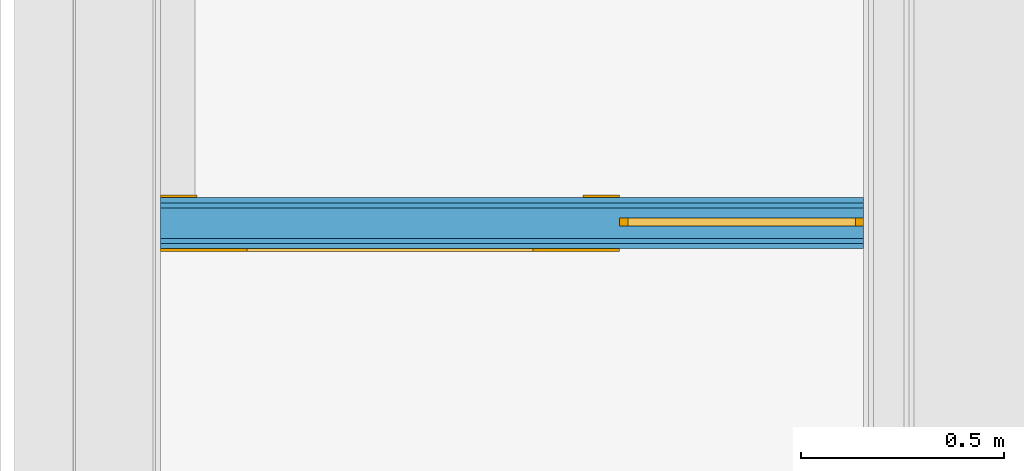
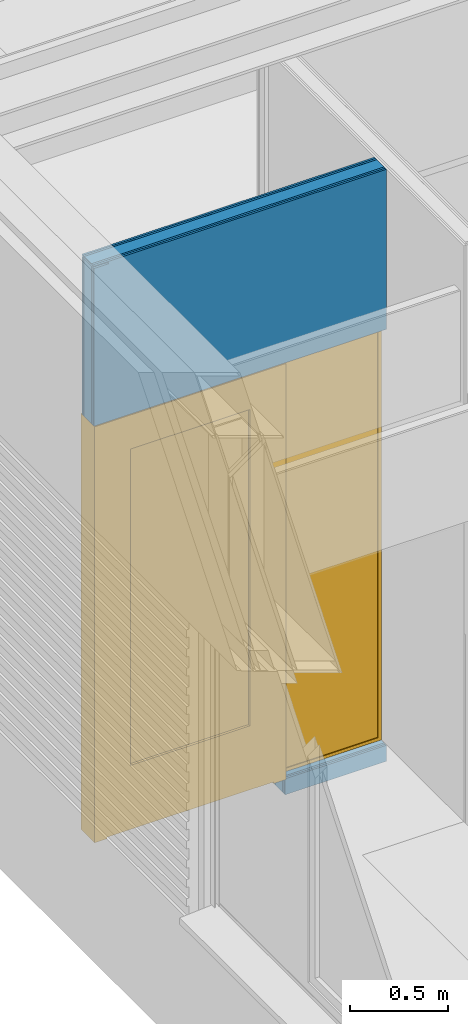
# One storey, part 46 of 137: 5 building element parts, 2 doors, 2 openings, 1 element without a shape of its own.
"""IFC2X3 building model written with IfcOpenShell, lengths in millimetres."""

from ifc_helpers import new_model, entity, si_unit, converted_unit, derived_unit, money_unit, direction, frame, origin_with_axes, place, context, subcontext, project, spatial, open_shell, faceted_brep, surface_model, source, transform, mapped, material, type_object, type_shapes, element, fill, aggregate, save


model = new_model("IFC2X3")

# Units and contexts
model_context = context("Model", 3, precision=0.01, world=origin_with_axes(), true_north=direction((0.0, 1.0)))
body_context = subcontext(model_context, "Body", "Model", "MODEL_VIEW")
ifc_project = project(units=[si_unit("LENGTHUNIT", "METRE", prefix="MILLI"), si_unit("AREAUNIT", "SQUARE_METRE"), si_unit("VOLUMEUNIT", "CUBIC_METRE"), converted_unit("PLANEANGLEUNIT", "DEGREE", entity("IfcPlaneAngleMeasure", 0.0174532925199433), si_unit("PLANEANGLEUNIT", "RADIAN"), dimensions=[0, 0, 0, 0, 0, 0, 0]), money_unit("EUR"), converted_unit("TIMEUNIT", "Year", entity("IfcTimeMeasure", 31556926.0), si_unit("TIMEUNIT", "SECOND"), dimensions=[0, 0, 1, 0, 0, 0, 0]), si_unit("MASSUNIT", "GRAM", prefix="KILO"), si_unit("THERMODYNAMICTEMPERATUREUNIT", "DEGREE_CELSIUS"), si_unit("LUMINOUSINTENSITYUNIT", "LUMEN"), si_unit("ENERGYUNIT", "JOULE", prefix="MEGA"), derived_unit("THERMALCONDUCTANCEUNIT", [(si_unit("POWERUNIT", "WATT"), 1), (si_unit("LENGTHUNIT", "METRE"), -1), (si_unit("THERMODYNAMICTEMPERATUREUNIT", "KELVIN"), -1)]), derived_unit("SPECIFICHEATCAPACITYUNIT", [(si_unit("ENERGYUNIT", "JOULE"), 1), (si_unit("MASSUNIT", "GRAM", prefix="KILO"), -1), (si_unit("THERMODYNAMICTEMPERATUREUNIT", "KELVIN"), -1)]), derived_unit("MASSDENSITYUNIT", [(si_unit("MASSUNIT", "GRAM", prefix="KILO"), 1), (si_unit("VOLUMEUNIT", "CUBIC_METRE"), -1)])], contexts=[model_context])

# Site, building, storey
site_placement = place(None, origin_with_axes())
site = spatial("IfcSite", under=ifc_project, at=site_placement, Name="Site", CompositionType="ELEMENT")
building_placement = place(site_placement, origin_with_axes())
building = spatial("IfcBuilding", under=site, at=building_placement, Name="Naam gebouw", CompositionType="ELEMENT")
storey_placement = place(building_placement, frame((0.0, 0.0, 3960.0), z_axis=(0.0, 0.0, 1.0), x_axis=(1.0, 0.0, 0.0)))
storey = spatial("IfcBuildingStorey", under=building, at=storey_placement, Name="1e verdieping", CompositionType="ELEMENT", Elevation=3960.0)

# Door
door_style_1 = type_object("IfcDoorStyle", Name="D1 26", ConstructionType="NOTDEFINED", OperationType="SINGLE_SWING_RIGHT", ParameterTakesPrecedence=False, Sizeable=False)
shared_shape = source(origin_with_axes(), body_context, "Body", "SurfaceModel", [
    faceted_brep([(-475.0000000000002, -40.0, 0.0), (-475.0000000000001, -40.0, 2510.0), (-475.0000000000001, -139.0, 2510.0), (-475.0000000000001, -139.0, 0.0), (-492.0000000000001, -40.0, 2510.0), (-492.0000000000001, -40.0, 0.0), (-492.0000000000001, 0.0, 2510.0), (-565.0, 0.0, 2510.0), (-565.0, -139.0, 2510.0), (-565.0, -139.0, 0.0), (-565.0, 0.0, 0.0), (-492.0000000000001, 0.0, 0.0)], [[[0, 1, 2, 3]], [[4, 1, 0, 5]], [[4, 6, 7, 8, 2, 1]], [[3, 2, 8, 9]], [[5, 0, 3, 9, 10, 11]], [[6, 4, 5, 11]], [[6, 11, 10, 7]], [[10, 9, 8, 7]]]),
    faceted_brep([(492.0000000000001, -40.0, 2510.0), (475.0000000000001, -40.0, 2510.0), (475.0000000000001, -139.0, 2510.0), (565.0, -139.0, 2510.0), (565.0, 0.0, 2510.0), (492.0000000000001, 0.0, 2510.0), (492.0000000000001, -40.0, 0.0), (475.0000000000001, -40.0, 0.0), (475.0000000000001, -139.0, 0.0), (565.0, -139.0, 0.0), (565.0, 0.0, 0.0), (492.0000000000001, 0.0, 0.0)], [[[0, 1, 2, 3, 4, 5]], [[1, 0, 6, 7]], [[1, 7, 8, 2]], [[3, 2, 8, 9]], [[4, 3, 9, 10]], [[11, 5, 4, 10]], [[0, 5, 11, 6]], [[6, 11, 10, 9, 8, 7]]]),
    faceted_brep([(-492.0000000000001, 0.0, 2527.0), (-492.0000000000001, 0.0, 2510.0), (-565.0000000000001, 0.0, 2510.0), (-565.0000000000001, 0.0, 2600.0), (565.0000000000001, 0.0, 2600.0), (565.0000000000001, 0.0, 2510.0), (492.0000000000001, 0.0, 2510.0), (492.0000000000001, 0.0, 2527.0), (-492.0000000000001, -40.0, 2527.0), (-492.0000000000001, -40.0, 2510.0), (-475.0000000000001, -40.0, 2510.0), (-475.0000000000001, -139.0, 2510.0), (-565.0000000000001, -139.0, 2510.0), (-565.0000000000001, -139.0, 2600.0), (565.0000000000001, -139.0, 2600.0), (565.0000000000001, -139.0, 2510.0), (492.0000000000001, -40.0, 2510.0), (475.0000000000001, -139.0, 2510.0), (475.0000000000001, -40.0, 2510.0), (492.0000000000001, -40.0, 2527.0)], [[[0, 1, 2, 3, 4, 5, 6, 7]], [[1, 0, 8, 9]], [[9, 10, 11, 12, 2, 1]], [[2, 12, 13, 3]], [[3, 13, 14, 4]], [[4, 14, 15, 5]], [[16, 6, 5, 15, 17, 18]], [[7, 6, 16, 19]], [[0, 7, 19, 8]], [[16, 18, 10, 9, 8, 19]], [[10, 18, 17, 11]], [[17, 15, 14, 13, 12, 11]]]),
    faceted_brep([(492.0, 0.0, 410.0000000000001), (492.0, -40.00000000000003, 410.0000000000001), (352.0, -40.00000000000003, 410.0000000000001), (352.0, 0.0, 410.0000000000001), (492.0, 0.0, 2387.0), (492.0, -40.00000000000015, 2387.0), (352.0, -40.00000000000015, 2387.0), (352.0, 0.0, 2387.0)], [[[0, 1, 2, 3]], [[4, 5, 1, 0]], [[1, 5, 6, 2]], [[3, 2, 6, 7]], [[0, 3, 7, 4]], [[7, 6, 5, 4]]]),
    faceted_brep([(-492.0000000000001, 0.0, 410.0000000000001), (-492.0000000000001, -40.00000000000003, 410.0000000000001), (-492.0000000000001, -40.00000000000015, 2387.0), (-492.0000000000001, 0.0, 2387.0), (-352.0000000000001, 0.0, 410.0000000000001), (-352.0000000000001, -40.00000000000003, 410.0000000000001), (-352.0000000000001, -40.00000000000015, 2387.0), (-352.0000000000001, 0.0, 2387.0)], [[[0, 1, 2, 3]], [[4, 5, 1, 0]], [[1, 5, 6, 2]], [[3, 2, 6, 7]], [[0, 3, 7, 4]], [[7, 6, 5, 4]]]),
    faceted_brep([(492.0, 0.0, 10.0), (492.0, -40.0, 10.0), (-492.0000000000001, -40.0, 10.0), (-492.0000000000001, 0.0, 10.0), (492.0, 0.0, 410.0000000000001), (492.0, -40.00000000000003, 410.0000000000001), (352.0, -40.00000000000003, 410.0000000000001), (-352.0000000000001, -40.00000000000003, 410.0000000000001), (-492.0000000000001, -40.00000000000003, 410.0000000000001), (-492.0000000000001, 0.0, 410.0000000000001), (-352.0000000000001, 0.0, 410.0000000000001), (352.0, 0.0, 410.0000000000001)], [[[0, 1, 2, 3]], [[4, 5, 1, 0]], [[1, 5, 6, 7, 8, 2]], [[3, 2, 8, 9]], [[0, 3, 9, 10, 11, 4]], [[11, 6, 5, 4]], [[10, 7, 6, 11]], [[9, 8, 7, 10]]]),
    faceted_brep([(492.0, 0.0, 2527.0), (492.0, -40.00000000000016, 2527.0), (492.0, -40.00000000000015, 2387.0), (492.0, 0.0, 2387.0), (-492.0000000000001, 0.0, 2527.0), (-492.0000000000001, -40.00000000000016, 2527.0), (-492.0000000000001, -40.00000000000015, 2387.0), (-352.0000000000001, -40.00000000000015, 2387.0), (352.0, -40.00000000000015, 2387.0), (352.0, 0.0, 2387.0), (-352.0000000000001, 0.0, 2387.0), (-492.0000000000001, 0.0, 2387.0)], [[[0, 1, 2, 3]], [[4, 5, 1, 0]], [[1, 5, 6, 7, 8, 2]], [[3, 2, 8, 9]], [[0, 3, 9, 10, 11, 4]], [[11, 6, 5, 4]], [[10, 7, 6, 11]], [[9, 8, 7, 10]]]),
    surface_model("IfcShellBasedSurfaceModel", [(352.0, -14.0, 410.0000000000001), (-352.0000000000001, -14.0, 410.0000000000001), (-352.0000000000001, -14.0, 2387.0), (352.0, -14.0, 2387.0)], [open_shell([[[0, 1, 2, 3]]])]),
    surface_model("IfcShellBasedSurfaceModel", [(352.0, -26.0, 410.0000000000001), (352.0, -26.0, 2387.0), (-352.0000000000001, -26.0, 2387.0), (-352.0000000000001, -26.0, 410.0000000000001)], [open_shell([[[0, 1, 2, 3]]])]),
])
type_shapes(door_style_1, [shared_shape])
proxy_placement = place(storey_placement, frame((0.0, 21157.47621406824, -100.0000000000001), z_axis=(0.0, 0.0, 1.0), x_axis=(1.0, 0.0, 0.0)))
opening_2_placement = place(proxy_placement, frame((779.000000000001, 0.0, 100.0000000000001), z_axis=(0.0, 0.0, 1.0), x_axis=(1.0, 0.0, 0.0)))
door_1_placement = place(opening_2_placement, frame((474.9999999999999, 0.0, 0.0), z_axis=(0.0, 0.0, 1.0), x_axis=(-1.0, 0.0, 0.0)))
door_1 = element("IfcDoor", 1, at=door_1_placement, inside=storey, type_object=door_style_1, Name="_01.01", ObjectType="DOOR", OverallHeight=2600.0, OverallWidth=1130.0, context=body_context, shape_type="MappedRepresentation", body=[
    mapped(shared_shape, transform((474.9999999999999, 69.50000000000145, 0.0))),
])

door_style_2 = type_object("IfcDoorStyle", Name="R1 26", ConstructionType="NOTDEFINED", OperationType="SINGLE_SWING_RIGHT", ParameterTakesPrecedence=False, Sizeable=False)
opening_1_placement = place(proxy_placement, frame((1644.000000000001, 0.0, 99.99999999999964), z_axis=(0.0, 0.0, 1.0), x_axis=(1.0, 0.0, 0.0)))
door_2_placement = place(opening_1_placement, frame((-300.0000000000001, 0.0, 0.0), z_axis=(0.0, 0.0, 1.0), x_axis=(1.0, 0.0, 0.0)))
door_2 = element("IfcDoor", 2, at=door_2_placement, inside=storey, type_object=door_style_2, Name="_F.01", ObjectType="DOOR", OverallHeight=2600.0, OverallWidth=600.0, context=body_context, shape_type="SurfaceModel", body=[
    faceted_brep([(580.0000000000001, -7.500000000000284, 2580.000000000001), (600.0000000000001, -7.500000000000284, 2580.000000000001), (600.0000000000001, 12.49999999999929, 2580.000000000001), (580.0000000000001, 12.49999999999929, 2580.000000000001), (580.0000000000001, -7.500000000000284, 20.00000000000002), (600.0000000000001, -7.500000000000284, 20.00000000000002), (600.0000000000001, 12.49999999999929, 20.00000000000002), (580.0000000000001, 12.49999999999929, 20.00000000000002)], [[[0, 1, 2, 3]], [[0, 4, 5, 1]], [[1, 5, 6, 2]], [[3, 2, 6, 7]], [[4, 0, 3, 7]], [[5, 4, 7, 6]]]),
    faceted_brep([(20.00000000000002, -7.500000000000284, 20.00000000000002), (0.0, -7.500000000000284, 20.00000000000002), (0.0, 12.49999999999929, 20.00000000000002), (20.00000000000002, 12.49999999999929, 20.00000000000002), (20.00000000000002, -7.500000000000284, 2580.000000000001), (0.0, -7.500000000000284, 2580.000000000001), (0.0, 12.49999999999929, 2580.000000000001), (20.00000000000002, 12.49999999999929, 2580.000000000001)], [[[0, 1, 2, 3]], [[0, 4, 5, 1]], [[1, 5, 6, 2]], [[3, 2, 6, 7]], [[4, 0, 3, 7]], [[5, 4, 7, 6]]]),
    faceted_brep([(580.0000000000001, -7.500000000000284, 20.00000000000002), (600.0000000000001, -7.500000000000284, 20.00000000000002), (600.0000000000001, 12.49999999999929, 20.00000000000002), (580.0000000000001, 12.49999999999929, 20.00000000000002), (20.00000000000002, -7.500000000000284, 20.00000000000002), (0.0, -7.500000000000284, 20.00000000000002), (0.0, -7.500000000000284, 0.0), (600.0000000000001, -7.500000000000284, 0.0), (600.0000000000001, 12.49999999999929, 0.0), (0.0, 12.49999999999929, 0.0), (0.0, 12.49999999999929, 20.00000000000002), (20.00000000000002, 12.49999999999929, 20.00000000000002)], [[[0, 1, 2, 3]], [[0, 4, 5, 6, 7, 1]], [[1, 7, 8, 2]], [[3, 2, 8, 9, 10, 11]], [[4, 0, 3, 11]], [[5, 4, 11, 10]], [[6, 5, 10, 9]], [[7, 6, 9, 8]]]),
    faceted_brep([(20.00000000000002, -7.500000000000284, 2580.000000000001), (0.0, -7.500000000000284, 2580.000000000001), (0.0, 12.49999999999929, 2580.000000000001), (20.00000000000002, 12.49999999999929, 2580.000000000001), (580.0000000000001, -7.500000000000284, 2580.000000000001), (600.0000000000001, -7.500000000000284, 2580.000000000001), (600.0000000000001, -7.500000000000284, 2600.000000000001), (0.0, -7.500000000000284, 2600.000000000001), (0.0, 12.49999999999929, 2600.000000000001), (600.0000000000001, 12.49999999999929, 2600.000000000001), (600.0000000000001, 12.49999999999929, 2580.000000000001), (580.0000000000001, 12.49999999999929, 2580.000000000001)], [[[0, 1, 2, 3]], [[0, 4, 5, 6, 7, 1]], [[1, 7, 8, 2]], [[3, 2, 8, 9, 10, 11]], [[4, 0, 3, 11]], [[5, 4, 11, 10]], [[6, 5, 10, 9]], [[7, 6, 9, 8]]]),
    surface_model("IfcShellBasedSurfaceModel", [(580.0000000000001, -2.500000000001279, 20.00000000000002), (580.0000000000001, -2.500000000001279, 2580.000000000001), (20.00000000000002, -2.500000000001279, 2580.000000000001), (20.00000000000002, -2.500000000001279, 20.00000000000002)], [open_shell([[[0, 1, 2, 3]]])]),
    surface_model("IfcShellBasedSurfaceModel", [(580.0000000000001, 7.500000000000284, 20.00000000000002), (20.00000000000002, 7.500000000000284, 20.00000000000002), (20.00000000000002, 7.500000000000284, 2580.000000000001), (580.0000000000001, 7.500000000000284, 2580.000000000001)], [open_shell([[[0, 1, 2, 3]]])]),
])

# Proxy, opening
building_element_proxy_type = type_object("IfcBuildingElementProxyType", Name="22 Metal stud 125 gips 125", PredefinedType="NOTDEFINED")
proxy = element("IfcBuildingElementProxy", 3, at=proxy_placement, inside=storey, type_object=building_element_proxy_type, Name="_Wand-x")
opening_1 = element("IfcOpeningElement", 4, at=opening_1_placement, cuts=proxy, Name="_F.01", context=body_context, shape_type="Brep", body=[
    faceted_brep([(-300.0000000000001, 12.49999999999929, 0.0), (-300.0000000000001, 12.49999999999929, 2600.000000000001), (-300.0000000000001, 63.50000000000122, 2600.000000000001), (-300.0000000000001, 63.50000000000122, 0.0), (-300.0000000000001, -63.50000000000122, 0.0), (-300.0000000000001, -63.50000000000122, 2600.000000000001), (300.0000000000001, 12.49999999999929, 2600.000000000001), (300.0000000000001, 63.50000000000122, 2600.000000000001), (300.0000000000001, -63.50000000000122, 2600.000000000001), (300.0000000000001, 63.50000000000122, 0.0), (300.0000000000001, 12.49999999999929, 0.0), (300.0000000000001, -63.50000000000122, 0.0)], [[[0, 1, 2, 3]], [[1, 0, 4, 5]], [[6, 7, 2, 1, 5, 8]], [[7, 9, 3, 2]], [[0, 3, 9, 10, 11, 4]], [[5, 4, 11, 8]], [[6, 10, 9, 7]], [[10, 6, 8, 11]]]),
])

fill(opening_1, door_2)

# Opening
opening_2 = element("IfcOpeningElement", 5, at=opening_2_placement, cuts=proxy, Name="_01.01", context=body_context, shape_type="Brep", body=[
    faceted_brep([(565.0000000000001, 63.50000000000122, 2600.0), (565.0000000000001, 63.50000000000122, -100.0000000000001), (-565.0000000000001, 63.50000000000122, -100.0000000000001), (-565.0000000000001, 63.50000000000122, 2600.0), (565.0000000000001, -63.50000000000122, 2600.0), (565.0000000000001, -63.50000000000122, -100.0000000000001), (-565.0000000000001, -63.50000000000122, -100.0000000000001), (-565.0000000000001, -63.50000000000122, 2600.0)], [[[0, 1, 2, 3]], [[4, 5, 1, 0]], [[5, 6, 2, 1]], [[6, 7, 3, 2]], [[7, 4, 0, 3]], [[6, 5, 4, 7]]]),
])

fill(opening_2, door_1)

# Building element part
ifc_material_1 = material(Name="Gipsplaat")
building_element_part_1_placement = place(proxy_placement, origin_with_axes())
building_element_part_1 = element("IfcBuildingElementPart", 6, at=building_element_part_1_placement, material=ifc_material_1, Name="Gipsplaat", context=body_context, shape_type="Brep", body=[
    faceted_brep([(1344.0, 50.00000000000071, 0.0), (1344.0, 50.00000000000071, 99.99999999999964), (1944.0, 50.00000000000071, 99.99999999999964), (1944.0, 50.00000000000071, 0.0), (1344.0, 37.50000000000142, 99.99999999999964), (1344.0, 37.50000000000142, 0.0), (1944.0, 37.50000000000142, 99.99999999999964), (1944.0, 37.50000000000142, 0.0)], [[[0, 1, 2, 3]], [[4, 1, 0, 5]], [[1, 4, 6, 2]], [[6, 7, 3, 2]], [[5, 0, 3, 7]], [[4, 5, 7, 6]]]),
    faceted_brep([(1344.0, 37.50000000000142, 2700.0), (213.9999999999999, 37.50000000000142, 2700.0), (213.9999999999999, 50.00000000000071, 2700.0), (1344.0, 50.00000000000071, 2700.0), (1944.0, 50.00000000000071, 2700.0), (1944.0, 37.50000000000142, 2700.0), (1944.0, 37.50000000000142, 3700.0), (214.0000000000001, 37.50000000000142, 3700.0), (214.0000000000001, 37.50000000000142, 3695.000001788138), (299.0000049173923, 37.50000000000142, 3695.000001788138), (299.0000049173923, 37.50000000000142, 3685.000001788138), (214.0000000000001, 37.50000000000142, 3685.000001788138), (214.0000000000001, 50.00000000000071, 3685.000001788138), (299.0000049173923, 50.00000000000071, 3685.000001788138), (299.0000049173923, 50.00000000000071, 3695.000001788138), (214.0000000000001, 50.00000000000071, 3695.000001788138), (214.0000000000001, 50.00000000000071, 3700.0), (1944.0, 50.00000000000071, 3700.0)], [[[0, 1, 2, 3, 4, 5]], [[1, 0, 5, 6, 7, 8, 9, 10, 11]], [[2, 1, 11, 12]], [[3, 2, 12, 13, 14, 15, 16, 17, 4]], [[4, 17, 6, 5]], [[16, 7, 6, 17]], [[7, 16, 15, 8]], [[9, 8, 15, 14]], [[10, 9, 14, 13]], [[11, 10, 13, 12]]]),
])

building_element_part_2_placement = place(proxy_placement, origin_with_axes())
building_element_part_2 = element("IfcBuildingElementPart", 7, at=building_element_part_2_placement, material=ifc_material_1, Name="Gipsplaat", context=body_context, shape_type="Brep", body=[
    faceted_brep([(1344.0, 62.5, 0.0), (1344.0, 62.5, 99.99999999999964), (1944.0, 62.5, 99.99999999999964), (1944.0, 62.5, 0.0), (1344.0, 50.00000000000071, 99.99999999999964), (1344.0, 50.00000000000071, 0.0), (1944.0, 50.00000000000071, 99.99999999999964), (1944.0, 50.00000000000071, 0.0)], [[[0, 1, 2, 3]], [[4, 1, 0, 5]], [[1, 4, 6, 2]], [[6, 7, 3, 2]], [[5, 0, 3, 7]], [[4, 5, 7, 6]]]),
    faceted_brep([(1344.0, 50.00000000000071, 2700.0), (213.9999999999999, 50.00000000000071, 2700.0), (213.9999999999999, 62.5, 2700.0), (1344.0, 62.5, 2700.0), (1944.0, 62.5, 2700.0), (1944.0, 50.00000000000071, 2700.0), (1944.0, 50.00000000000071, 3700.0), (214.0000000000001, 50.00000000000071, 3700.0), (214.0000000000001, 50.00000000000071, 3695.000001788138), (299.0000049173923, 50.00000000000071, 3695.000001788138), (299.0000049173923, 50.00000000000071, 3685.000001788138), (214.0000000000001, 50.00000000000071, 3685.000001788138), (214.0000000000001, 62.5, 3685.000001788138), (299.0000049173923, 62.5, 3685.000001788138), (299.0000049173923, 62.5, 3695.000001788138), (214.0000000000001, 62.5, 3695.000001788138), (214.0000000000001, 62.5, 3700.0), (1944.0, 62.5, 3700.0)], [[[0, 1, 2, 3, 4, 5]], [[1, 0, 5, 6, 7, 8, 9, 10, 11]], [[2, 1, 11, 12]], [[3, 2, 12, 13, 14, 15, 16, 17, 4]], [[4, 17, 6, 5]], [[16, 7, 6, 17]], [[7, 16, 15, 8]], [[9, 8, 15, 14]], [[10, 9, 14, 13]], [[11, 10, 13, 12]]]),
])

ifc_material_2 = material(Name="ALG - LICHTE SCHEIDINGSWAND")
building_element_part_3_placement = place(proxy_placement, origin_with_axes())
building_element_part_3 = element("IfcBuildingElementPart", 8, at=building_element_part_3_placement, material=ifc_material_2, Name="ALG - LICHTE SCHEIDINGSWAND", context=body_context, shape_type="Brep", body=[
    faceted_brep([(1344.0, 37.50000000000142, 0.0), (1344.0, 37.50000000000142, 99.99999999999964), (1944.0, 37.50000000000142, 99.99999999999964), (1944.0, 37.50000000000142, 0.0), (1344.0, -37.50000000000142, 99.99999999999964), (1344.0, -37.50000000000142, 0.0), (1944.0, -37.50000000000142, 99.99999999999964), (1944.0, -37.50000000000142, 0.0)], [[[0, 1, 2, 3]], [[4, 1, 0, 5]], [[1, 4, 6, 2]], [[7, 3, 2, 6]], [[5, 0, 3, 7]], [[4, 5, 7, 6]]]),
    faceted_brep([(1344.0, -37.50000000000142, 2700.0), (213.9999999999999, -37.50000000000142, 2700.0), (213.9999999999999, 37.50000000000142, 2700.0), (1344.0, 37.50000000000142, 2700.0), (1944.0, 37.50000000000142, 2700.0), (1944.0, -37.49999999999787, 2700.0), (1944.0, -37.49999999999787, 3700.0), (214.0000000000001, -37.50000000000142, 3700.0), (214.0000000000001, -37.50000000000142, 3695.000001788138), (299.0000049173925, -37.49999999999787, 3695.000001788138), (299.0000049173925, -37.49999999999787, 3685.000001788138), (214.0000000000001, -37.50000000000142, 3685.000001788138), (214.0000000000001, 37.50000000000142, 3685.000001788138), (299.0000049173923, 37.50000000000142, 3685.000001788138), (299.0000049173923, 37.50000000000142, 3695.000001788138), (214.0000000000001, 37.50000000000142, 3695.000001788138), (214.0000000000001, 37.50000000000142, 3700.0), (1944.0, 37.50000000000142, 3700.0)], [[[0, 1, 2, 3, 4, 5]], [[1, 0, 5, 6, 7, 8, 9, 10, 11]], [[2, 1, 11, 12]], [[3, 2, 12, 13, 14, 15, 16, 17, 4]], [[4, 17, 6, 5]], [[7, 6, 17, 16]], [[16, 15, 8, 7]], [[8, 15, 14, 9]], [[9, 14, 13, 10]], [[10, 13, 12, 11]]]),
])

building_element_part_4_placement = place(proxy_placement, origin_with_axes())
building_element_part_4 = element("IfcBuildingElementPart", 9, at=building_element_part_4_placement, material=ifc_material_1, Name="Gipsplaat", context=body_context, shape_type="Brep", body=[
    faceted_brep([(1344.0, -50.00000000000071, 0.0), (1344.0, -50.00000000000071, 99.99999999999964), (1944.0, -50.00000000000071, 99.99999999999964), (1944.0, -50.00000000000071, 0.0), (1344.0, -62.5, 99.99999999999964), (1344.0, -62.5, 0.0), (1944.0, -62.5, 99.99999999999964), (1944.0, -62.5, 0.0)], [[[0, 1, 2, 3]], [[4, 1, 0, 5]], [[1, 4, 6, 2]], [[6, 7, 3, 2]], [[5, 0, 3, 7]], [[4, 5, 7, 6]]]),
    faceted_brep([(1344.0, -62.5, 2700.0), (213.9999999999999, -62.5, 2700.0), (213.9999999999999, -50.00000000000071, 2700.0), (1344.0, -50.00000000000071, 2700.0), (1944.0, -50.00000000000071, 2700.0), (1944.0, -62.5, 2700.0), (1944.0, -62.5, 3700.0), (214.0000000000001, -62.5, 3700.0), (214.0000000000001, -62.5, 3695.000001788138), (299.0000049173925, -62.5, 3695.000001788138), (299.0000049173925, -62.5, 3685.000001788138), (214.0000000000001, -62.5, 3685.000001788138), (214.0000000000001, -50.00000000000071, 3685.000001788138), (299.0000049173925, -50.00000000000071, 3685.000001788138), (299.0000049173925, -50.00000000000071, 3695.000001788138), (214.0000000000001, -50.00000000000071, 3695.000001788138), (214.0000000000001, -50.00000000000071, 3700.0), (1944.0, -50.00000000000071, 3700.0)], [[[0, 1, 2, 3, 4, 5]], [[1, 0, 5, 6, 7, 8, 9, 10, 11]], [[2, 1, 11, 12]], [[3, 2, 12, 13, 14, 15, 16, 17, 4]], [[4, 17, 6, 5]], [[16, 7, 6, 17]], [[7, 16, 15, 8]], [[9, 8, 15, 14]], [[10, 9, 14, 13]], [[11, 10, 13, 12]]]),
])

building_element_part_5_placement = place(proxy_placement, origin_with_axes())
building_element_part_5 = element("IfcBuildingElementPart", 10, at=building_element_part_5_placement, material=ifc_material_1, Name="Gipsplaat", context=body_context, shape_type="Brep", body=[
    faceted_brep([(1344.0, -37.50000000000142, 0.0), (1344.0, -37.50000000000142, 99.99999999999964), (1944.0, -37.50000000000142, 99.99999999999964), (1944.0, -37.50000000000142, 0.0), (1344.0, -50.00000000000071, 99.99999999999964), (1344.0, -50.00000000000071, 0.0), (1944.0, -50.00000000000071, 99.99999999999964), (1944.0, -50.00000000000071, 0.0)], [[[0, 1, 2, 3]], [[4, 1, 0, 5]], [[1, 4, 6, 2]], [[6, 7, 3, 2]], [[5, 0, 3, 7]], [[4, 5, 7, 6]]]),
    faceted_brep([(1344.0, -50.00000000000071, 2700.0), (213.9999999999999, -50.00000000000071, 2700.0), (213.9999999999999, -37.50000000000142, 2700.0), (1344.0, -37.50000000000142, 2700.0), (1944.0, -37.49999999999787, 2700.0), (1944.0, -50.00000000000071, 2700.0), (1944.0, -50.00000000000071, 3700.0), (214.0000000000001, -50.00000000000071, 3700.0), (214.0000000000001, -50.00000000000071, 3695.000001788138), (299.0000049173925, -50.00000000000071, 3695.000001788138), (299.0000049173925, -50.00000000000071, 3685.000001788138), (214.0000000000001, -50.00000000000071, 3685.000001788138), (214.0000000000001, -37.50000000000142, 3685.000001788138), (299.0000049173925, -37.50000000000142, 3685.000001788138), (299.0000049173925, -37.50000000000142, 3695.000001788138), (214.0000000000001, -37.50000000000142, 3695.000001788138), (214.0000000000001, -37.50000000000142, 3700.0), (1944.0, -37.49999999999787, 3700.0)], [[[0, 1, 2, 3, 4, 5]], [[1, 0, 5, 6, 7, 8, 9, 10, 11]], [[2, 1, 11, 12]], [[3, 2, 12, 13, 14, 15, 16, 17, 4]], [[4, 17, 6, 5]], [[16, 7, 6, 17]], [[7, 16, 15, 8]], [[9, 8, 15, 14]], [[10, 9, 14, 13]], [[11, 10, 13, 12]]]),
])

aggregate(proxy, [building_element_part_1, building_element_part_2, building_element_part_3, building_element_part_4, building_element_part_5])

save(model, "model.ifc")
